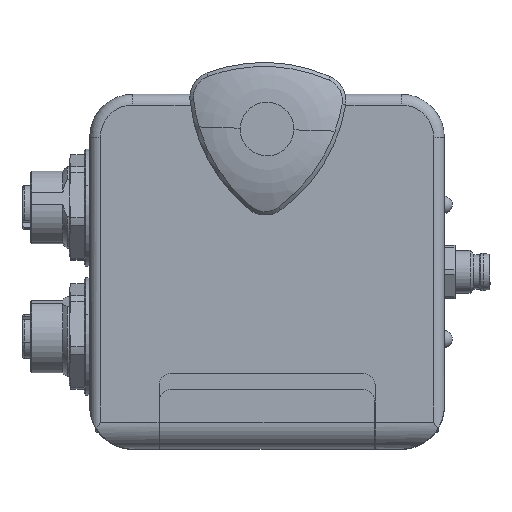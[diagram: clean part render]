
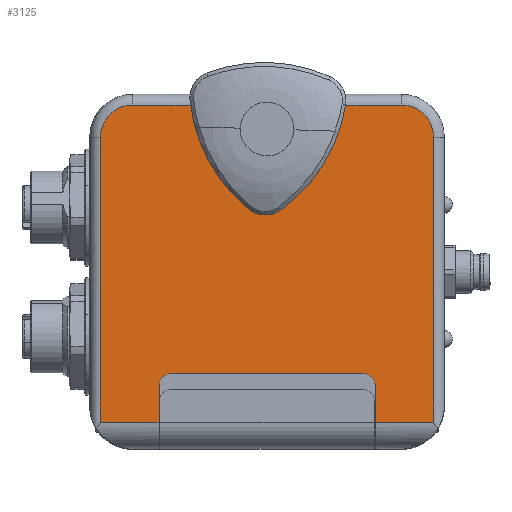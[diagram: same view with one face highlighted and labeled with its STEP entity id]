
A CAD part, top view. The second image highlights one B-rep face of the part: STEP entity #3125.
In plain terms, the highlighted planar face has unit normal (0, 0, 1) as drawn and (0, 1, 0) by its records, which use the part's own axes.
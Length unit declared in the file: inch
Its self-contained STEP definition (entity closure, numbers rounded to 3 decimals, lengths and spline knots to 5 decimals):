
#801 = ORIENTED_EDGE ( 'NONE', *, *, #39023, .F. ) ;
#1847 = AXIS2_PLACEMENT_3D ( 'NONE', #40446, #18663, #22030 ) ;
#1946 = VECTOR ( 'NONE', #9246, 39.37008 ) ;
#2364 = AXIS2_PLACEMENT_3D ( 'NONE', #7347, #21918, #36516 ) ;
#2372 = LINE ( 'NONE', #23168, #44582 ) ;
#2630 = ORIENTED_EDGE ( 'NONE', *, *, #22927, .T. ) ;
#3125 = ADVANCED_FACE ( 'NONE', ( #18192 ), #14819, .T. ) ;
#3212 = EDGE_LOOP ( 'NONE', ( #42015, #801, #3848, #38573, #44187, #20810, #16423, #36911, #21337, #3462, #30265, #11129, #30196, #23507, #29207, #2630, #33317 ) ) ;
#3462 = ORIENTED_EDGE ( 'NONE', *, *, #19697, .T. ) ;
#3679 = CIRCLE ( 'NONE', #9810, 0.23622 ) ;
#3683 = VERTEX_POINT ( 'NONE', #15227 ) ;
#3832 = DIRECTION ( 'NONE',  ( 0., 0., -1. ) ) ;
#3848 = ORIENTED_EDGE ( 'NONE', *, *, #27719, .F. ) ;
#4059 = CARTESIAN_POINT ( 'NONE',  ( 2.09055, 2.44094, -1.81496 ) ) ;
#4186 = VERTEX_POINT ( 'NONE', #8156 ) ;
#4517 = EDGE_CURVE ( 'NONE', #43541, #20042, #38193, .T. ) ;
#5249 = VERTEX_POINT ( 'NONE', #4059 ) ;
#5958 = EDGE_CURVE ( 'NONE', #42084, #4186, #42552, .T. ) ;
#6710 = DIRECTION ( 'NONE',  ( 0., 0., 1. ) ) ;
#7209 = DIRECTION ( 'NONE',  ( -1., 0., 0. ) ) ;
#7347 = CARTESIAN_POINT ( 'NONE',  ( 1.29921, 2.44094, -0.04921 ) ) ;
#8146 = AXIS2_PLACEMENT_3D ( 'NONE', #44009, #40891, #3832 ) ;
#8156 = CARTESIAN_POINT ( 'NONE',  ( 2.51969, 2.44094, 0. ) ) ;
#8398 = CARTESIAN_POINT ( 'NONE',  ( 2.09055, 2.44094, -2.08661 ) ) ;
#8543 = CARTESIAN_POINT ( 'NONE',  ( 2.51969, 2.44094, -1.9685 ) ) ;
#8821 = CARTESIAN_POINT ( 'NONE',  ( 2.28346, 2.44094, 0.23622 ) ) ;
#9020 = CARTESIAN_POINT ( 'NONE',  ( 1.42717, 2.44094, 0.67913 ) ) ;
#9245 = CARTESIAN_POINT ( 'NONE',  ( 0.50787, 2.44094, -1.73228 ) ) ;
#9246 = DIRECTION ( 'NONE',  ( 0., 0., -1. ) ) ;
#9323 = VERTEX_POINT ( 'NONE', #23438 ) ;
#9810 = AXIS2_PLACEMENT_3D ( 'NONE', #39599, #25005, #35531 ) ;
#10130 = EDGE_CURVE ( 'NONE', #21318, #31057, #28679, .T. ) ;
#10321 = DIRECTION ( 'NONE',  ( 0., 1., 0. ) ) ;
#10783 = CARTESIAN_POINT ( 'NONE',  ( 2.51969, 2.44094, -2.08661 ) ) ;
#11007 = VERTEX_POINT ( 'NONE', #10783 ) ;
#11075 = VERTEX_POINT ( 'NONE', #11256 ) ;
#11129 = ORIENTED_EDGE ( 'NONE', *, *, #19818, .T. ) ;
#11193 = LINE ( 'NONE', #36083, #17891 ) ;
#11256 = CARTESIAN_POINT ( 'NONE',  ( 1.17126, 2.44094, -0.04921 ) ) ;
#11736 = AXIS2_PLACEMENT_3D ( 'NONE', #46671, #32106, #13883 ) ;
#13554 = EDGE_CURVE ( 'NONE', #26178, #5249, #11193, .T. ) ;
#13883 = DIRECTION ( 'NONE',  ( 0., 0., -1. ) ) ;
#14819 = PLANE ( 'NONE',  #31775 ) ;
#14826 = CARTESIAN_POINT ( 'NONE',  ( 1.42717, 2.44094, -0.04921 ) ) ;
#14872 = VECTOR ( 'NONE', #18061, 39.37008 ) ;
#15227 = CARTESIAN_POINT ( 'NONE',  ( 0.31496, 2.44094, 0.23622 ) ) ;
#15428 = VECTOR ( 'NONE', #7209, 39.37008 ) ;
#15486 = CARTESIAN_POINT ( 'NONE',  ( 2.00787, 2.44094, -1.73228 ) ) ;
#15768 = EDGE_CURVE ( 'NONE', #9323, #21318, #25245, .T. ) ;
#15979 = DIRECTION ( 'NONE',  ( 0., 0., -1. ) ) ;
#16423 = ORIENTED_EDGE ( 'NONE', *, *, #36787, .T. ) ;
#16579 = EDGE_CURVE ( 'NONE', #3683, #29768, #38505, .T. ) ;
#16857 = DIRECTION ( 'NONE',  ( -1., 0., 0. ) ) ;
#17427 = CARTESIAN_POINT ( 'NONE',  ( 0.07874, 2.44094, 0. ) ) ;
#17853 = CIRCLE ( 'NONE', #1847, 0.08268 ) ;
#17891 = VECTOR ( 'NONE', #32272, 39.37008 ) ;
#18061 = DIRECTION ( 'NONE',  ( -1., 0., 0. ) ) ;
#18192 = FACE_OUTER_BOUND ( 'NONE', #3212, .T. ) ;
#18544 = CARTESIAN_POINT ( 'NONE',  ( 0.59055, 2.44094, -1.73228 ) ) ;
#18663 = DIRECTION ( 'NONE',  ( 0., -1., 0. ) ) ;
#18904 = LINE ( 'NONE', #33726, #15428 ) ;
#19619 = DIRECTION ( 'NONE',  ( 0., 0., -1. ) ) ;
#19685 = VECTOR ( 'NONE', #15979, 39.37008 ) ;
#19697 = EDGE_CURVE ( 'NONE', #5249, #43541, #35462, .T. ) ;
#19818 = EDGE_CURVE ( 'NONE', #20042, #44789, #17853, .T. ) ;
#19855 = VERTEX_POINT ( 'NONE', #14826 ) ;
#20042 = VERTEX_POINT ( 'NONE', #18544 ) ;
#20810 = ORIENTED_EDGE ( 'NONE', *, *, #5958, .T. ) ;
#21318 = VERTEX_POINT ( 'NONE', #23844 ) ;
#21337 = ORIENTED_EDGE ( 'NONE', *, *, #13554, .T. ) ;
#21511 = LINE ( 'NONE', #47116, #38599 ) ;
#21918 = DIRECTION ( 'NONE',  ( 0., 1., 0. ) ) ;
#22030 = DIRECTION ( 'NONE',  ( 0., 0., -1. ) ) ;
#22706 = EDGE_CURVE ( 'NONE', #37491, #19855, #45136, .T. ) ;
#22927 = EDGE_CURVE ( 'NONE', #31057, #3683, #3679, .T. ) ;
#22954 = CIRCLE ( 'NONE', #2364, 0.12795 ) ;
#23168 = CARTESIAN_POINT ( 'NONE',  ( 2.28346, 2.44094, 0.23622 ) ) ;
#23438 = CARTESIAN_POINT ( 'NONE',  ( 0.50787, 2.44094, -2.08661 ) ) ;
#23507 = ORIENTED_EDGE ( 'NONE', *, *, #15768, .T. ) ;
#23844 = CARTESIAN_POINT ( 'NONE',  ( 0.07874, 2.44094, -2.08661 ) ) ;
#24282 = EDGE_CURVE ( 'NONE', #11075, #29768, #21511, .T. ) ;
#24975 = CIRCLE ( 'NONE', #8146, 0.12795 ) ;
#25005 = DIRECTION ( 'NONE',  ( 0., 1., 0. ) ) ;
#25217 = CARTESIAN_POINT ( 'NONE',  ( 1.29921, 2.44094, -0.17717 ) ) ;
#25245 = LINE ( 'NONE', #32437, #14872 ) ;
#25735 = AXIS2_PLACEMENT_3D ( 'NONE', #44017, #40432, #19619 ) ;
#26178 = VERTEX_POINT ( 'NONE', #8398 ) ;
#27719 = EDGE_CURVE ( 'NONE', #19855, #41164, #24975, .T. ) ;
#28679 = LINE ( 'NONE', #17427, #30382 ) ;
#28773 = EDGE_CURVE ( 'NONE', #44789, #9323, #42067, .T. ) ;
#29207 = ORIENTED_EDGE ( 'NONE', *, *, #10130, .T. ) ;
#29768 = VERTEX_POINT ( 'NONE', #32718 ) ;
#30091 = CARTESIAN_POINT ( 'NONE',  ( 1.42717, 2.44094, 0.23622 ) ) ;
#30196 = ORIENTED_EDGE ( 'NONE', *, *, #28773, .T. ) ;
#30265 = ORIENTED_EDGE ( 'NONE', *, *, #4517, .T. ) ;
#30382 = VECTOR ( 'NONE', #32265, 39.37008 ) ;
#31057 = VERTEX_POINT ( 'NONE', #31473 ) ;
#31473 = CARTESIAN_POINT ( 'NONE',  ( 0.07874, 2.44094, 0. ) ) ;
#31549 = CARTESIAN_POINT ( 'NONE',  ( 0.50787, 2.44094, -1.73228 ) ) ;
#31775 = AXIS2_PLACEMENT_3D ( 'NONE', #44026, #10321, #32566 ) ;
#31878 = VECTOR ( 'NONE', #16857, 39.37008 ) ;
#32106 = DIRECTION ( 'NONE',  ( 0., -1., 0. ) ) ;
#32265 = DIRECTION ( 'NONE',  ( 0., 0., 1. ) ) ;
#32272 = DIRECTION ( 'NONE',  ( 0., 0., 1. ) ) ;
#32375 = EDGE_CURVE ( 'NONE', #11007, #26178, #18904, .T. ) ;
#32437 = CARTESIAN_POINT ( 'NONE',  ( 0., 2.44094, -2.08661 ) ) ;
#32566 = DIRECTION ( 'NONE',  ( 0., 0., -1. ) ) ;
#32718 = CARTESIAN_POINT ( 'NONE',  ( 1.17126, 2.44094, 0.23622 ) ) ;
#33317 = ORIENTED_EDGE ( 'NONE', *, *, #16579, .T. ) ;
#33726 = CARTESIAN_POINT ( 'NONE',  ( 2.09055, 2.44094, -2.08661 ) ) ;
#35386 = CARTESIAN_POINT ( 'NONE',  ( 2.28346, 2.44094, 0.23622 ) ) ;
#35462 = CIRCLE ( 'NONE', #11736, 0.08268 ) ;
#35531 = DIRECTION ( 'NONE',  ( 0., 0., -1. ) ) ;
#35702 = EDGE_CURVE ( 'NONE', #37491, #42084, #2372, .T. ) ;
#35760 = CARTESIAN_POINT ( 'NONE',  ( 0.50787, 2.44094, -1.81496 ) ) ;
#36083 = CARTESIAN_POINT ( 'NONE',  ( 2.09055, 2.44094, -1.73228 ) ) ;
#36480 = VECTOR ( 'NONE', #41536, 39.37008 ) ;
#36516 = DIRECTION ( 'NONE',  ( 0., 0., -1. ) ) ;
#36787 = EDGE_CURVE ( 'NONE', #4186, #11007, #38663, .T. ) ;
#36911 = ORIENTED_EDGE ( 'NONE', *, *, #32375, .T. ) ;
#37048 = VECTOR ( 'NONE', #46157, 39.37008 ) ;
#37491 = VERTEX_POINT ( 'NONE', #30091 ) ;
#38193 = LINE ( 'NONE', #9245, #31878 ) ;
#38505 = LINE ( 'NONE', #35386, #37048 ) ;
#38573 = ORIENTED_EDGE ( 'NONE', *, *, #22706, .F. ) ;
#38599 = VECTOR ( 'NONE', #6710, 39.37008 ) ;
#38663 = LINE ( 'NONE', #8543, #1946 ) ;
#39023 = EDGE_CURVE ( 'NONE', #41164, #11075, #22954, .T. ) ;
#39599 = CARTESIAN_POINT ( 'NONE',  ( 0.31496, 2.44094, 0. ) ) ;
#40432 = DIRECTION ( 'NONE',  ( 0., 1., 0. ) ) ;
#40446 = CARTESIAN_POINT ( 'NONE',  ( 0.59055, 2.44094, -1.81496 ) ) ;
#40891 = DIRECTION ( 'NONE',  ( 0., 1., 0. ) ) ;
#41164 = VERTEX_POINT ( 'NONE', #25217 ) ;
#41536 = DIRECTION ( 'NONE',  ( 0., 0., -1. ) ) ;
#42015 = ORIENTED_EDGE ( 'NONE', *, *, #24282, .F. ) ;
#42067 = LINE ( 'NONE', #31549, #19685 ) ;
#42084 = VERTEX_POINT ( 'NONE', #8821 ) ;
#42552 = CIRCLE ( 'NONE', #25735, 0.23622 ) ;
#43541 = VERTEX_POINT ( 'NONE', #15486 ) ;
#44009 = CARTESIAN_POINT ( 'NONE',  ( 1.29921, 2.44094, -0.04921 ) ) ;
#44017 = CARTESIAN_POINT ( 'NONE',  ( 2.28346, 2.44094, 0. ) ) ;
#44026 = CARTESIAN_POINT ( 'NONE',  ( 0.31496, 2.44094, 0. ) ) ;
#44187 = ORIENTED_EDGE ( 'NONE', *, *, #35702, .T. ) ;
#44582 = VECTOR ( 'NONE', #45676, 39.37008 ) ;
#44789 = VERTEX_POINT ( 'NONE', #35760 ) ;
#45136 = LINE ( 'NONE', #9020, #36480 ) ;
#45676 = DIRECTION ( 'NONE',  ( 1., 0., 0. ) ) ;
#46157 = DIRECTION ( 'NONE',  ( 1., 0., 0. ) ) ;
#46671 = CARTESIAN_POINT ( 'NONE',  ( 2.00787, 2.44094, -1.81496 ) ) ;
#47116 = CARTESIAN_POINT ( 'NONE',  ( 1.17126, 2.44094, 0.67913 ) ) ;
